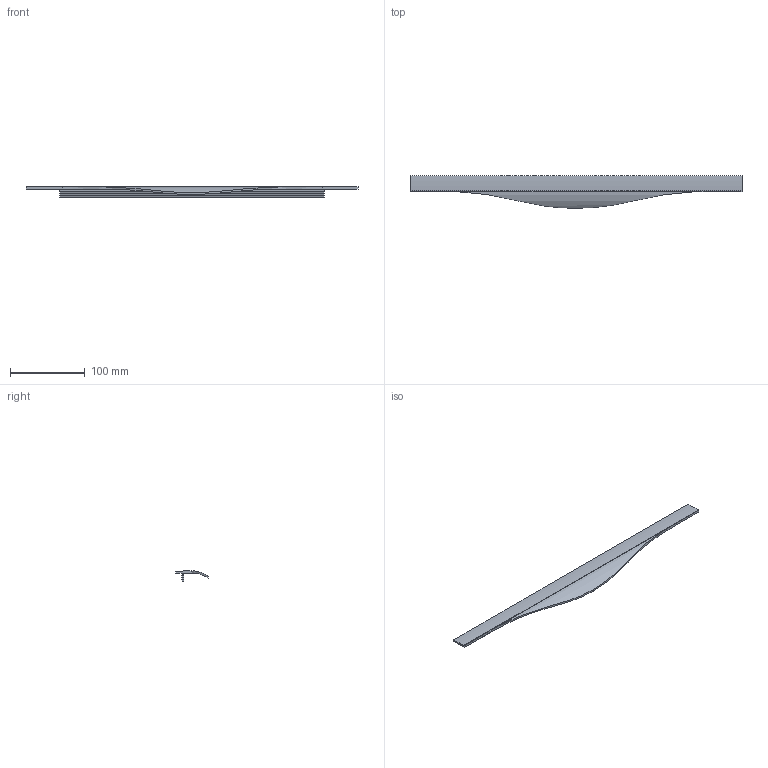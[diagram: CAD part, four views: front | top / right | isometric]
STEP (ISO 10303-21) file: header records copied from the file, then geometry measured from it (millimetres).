
FILE_DESCRIPTION( ( 'STEP AP214' ), '1' );
FILE_NAME( 'C:/Users/swati/Desktop/04-03-2016/9209997/9209997.stp', ' ', ( ' ' ), ( ' ' ), 'PSStep 15.0.47', 'PARTsolutions', ' ' );
FILE_SCHEMA( ( 'AUTOMOTIVE_DESIGN { 1 0 10303 214 1 1 1 1 }' ) );
Length unit declared in the file: millimetre
Products named in the file (2): 95 ; _
Assembly tree (1 placements, depth 2):
  95 
    _
Bounding box: 445 x 43.67 x 14 mm (x, y, z)
Volume: 42492 mm3; surface area: 38546.2 mm2
Topology: 1 solids, 1 shells, 32 faces, 87 edges, 58 vertices
Faces by surface type: plane 25, cylinder 7
Entity records: 1355 total; most frequent: CARTESIAN_POINT 259, ORIENTED_EDGE 174, DIRECTION 153, EDGE_CURVE 87, LINE 73, VECTOR 73, VERTEX_POINT 58, AXIS2_PLACEMENT_3D 40
